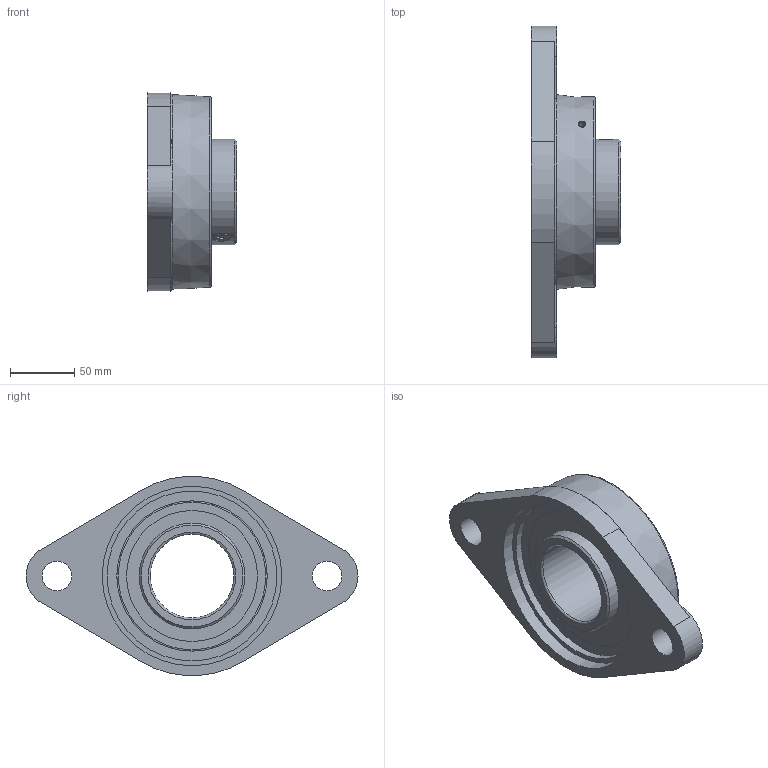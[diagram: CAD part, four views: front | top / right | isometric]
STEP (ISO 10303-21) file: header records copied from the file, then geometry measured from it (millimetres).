
FILE_DESCRIPTION (( 'STEP AP203' ), '1' );
FILE_NAME ('UCFL-213.STEP', '2019-03-08T12:11:59', ( '' ), ( '' ), 'SwSTEP 2.0', 'SolidWorks 2017', '' );
FILE_SCHEMA (( 'CONFIG_CONTROL_DESIGN' ));
Length unit declared in the file: millimetre
Products named in the file (1): UCFL-213
Bounding box: 69.7 x 258 x 154.55 mm (x, y, z)
Volume: 645164.4 mm3; surface area: 126264.7 mm2
Topology: 1 solids, 3 shells, 93 faces, 210 edges, 141 vertices
Faces by surface type: plane 43, cylinder 24, cone 10, torus 9, sphere 7
Full cylindrical faces by diameter (mm): 1.4 x4, 4.918 x1, 6 x1, 12 x2, 23 x2, 65 x1, 82 x4, 101.799 x2, 130 x1, 132 x1, 139.5 x1
Entity records: 3013 total; most frequent: CARTESIAN_POINT 1090, DIRECTION 384, ORIENTED_EDGE 304, AXIS2_PLACEMENT_3D 160, EDGE_LOOP 158, EDGE_CURVE 152, VERTEX_POINT 120, FACE_OUTER_BOUND 120
